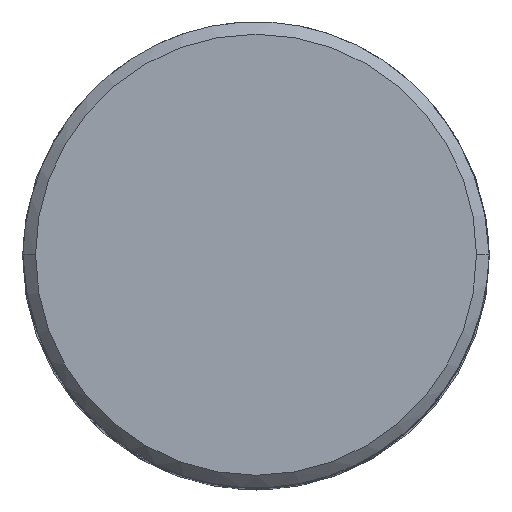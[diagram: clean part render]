
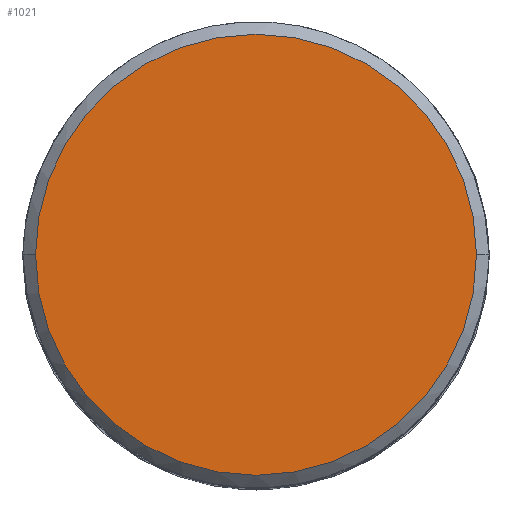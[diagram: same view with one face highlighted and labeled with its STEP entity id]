
A CAD part, top view. The second image highlights one B-rep face of the part: STEP entity #1021.
In plain terms, the highlighted planar face has unit normal (0, 0, 1).
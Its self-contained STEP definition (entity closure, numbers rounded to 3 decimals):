
#76=TRIMMED_CURVE($,#126,(#4324),(#4325),.T.,.CARTESIAN.);
#77=TRIMMED_CURVE($,#127,(#4331),(#4332),.T.,.CARTESIAN.);
#126=CIRCLE('',#2481,69.471);
#127=CIRCLE('',#2482,69.471);
#1021=ADVANCED_FACE('',(#1113),#2269,.T.);
#1113=FACE_OUTER_BOUND('',#1214,.T.);
#1214=EDGE_LOOP('',(#1559,#1560));
#1559=ORIENTED_EDGE('',*,*,#1804,.F.);
#1560=ORIENTED_EDGE('',*,*,#1801,.F.);
#1801=EDGE_CURVE('',#2176,#2177,#76,.T.);
#1804=EDGE_CURVE('',#2177,#2176,#77,.T.);
#2176=VERTEX_POINT('',#4318);
#2177=VERTEX_POINT('',#4319);
#2269=PLANE('',#2480);
#2480=AXIS2_PLACEMENT_3D('',#4315,#2660,$);
#2481=AXIS2_PLACEMENT_3D($,#4323,#2661,#2662);
#2482=AXIS2_PLACEMENT_3D($,#4330,#2663,#2664);
#2660=DIRECTION('',(0.,0.,1.));
#2661=DIRECTION('',(0.,0.,-1.));
#2662=DIRECTION('',(1.,0.,0.));
#2663=DIRECTION('',(0.,0.,-1.));
#2664=DIRECTION('',(-1.,0.,0.));
#4315=CARTESIAN_POINT('',(83.485,83.485,350.));
#4318=CARTESIAN_POINT('',(69.471,0.,350.));
#4319=CARTESIAN_POINT('',(-69.471,0.,350.));
#4323=CARTESIAN_POINT('',(0.,0.,350.));
#4324=CARTESIAN_POINT('',(69.471,0.,350.));
#4325=CARTESIAN_POINT('',(-69.471,0.,350.));
#4330=CARTESIAN_POINT('',(0.,0.,350.));
#4331=CARTESIAN_POINT('',(-69.471,0.,350.));
#4332=CARTESIAN_POINT('',(69.471,0.,350.));
